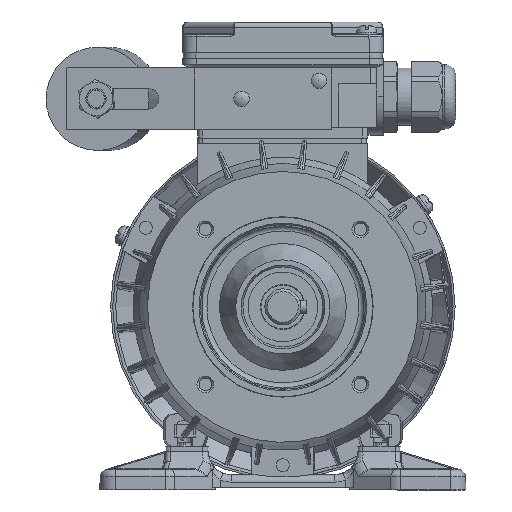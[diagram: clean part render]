
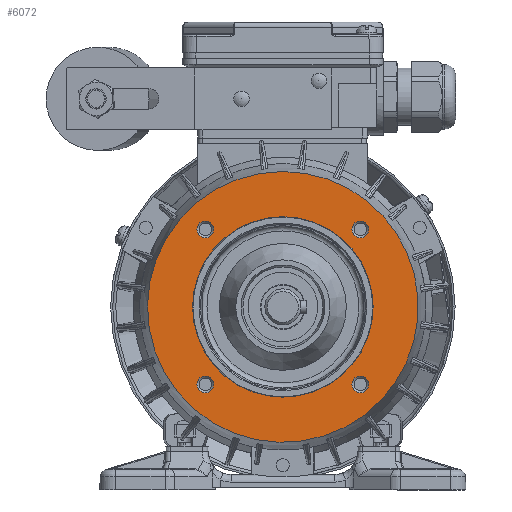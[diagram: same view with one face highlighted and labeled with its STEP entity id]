
A CAD part, front view. The second image highlights one B-rep face of the part: STEP entity #6072.
In plain terms, the highlighted planar face has unit normal (0, -1, 0) as drawn and (-1, 0, 0) by its records, which use the part's own axes.
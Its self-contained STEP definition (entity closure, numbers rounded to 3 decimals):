
#6072 = ADVANCED_FACE( '', ( #13155, #13156, #13157, #13158, #13159, #13160 ), #13161, .F. );
#13155 = FACE_BOUND( '', #43732, .T. );
#13156 = FACE_BOUND( '', #43733, .T. );
#13157 = FACE_BOUND( '', #43734, .T. );
#13158 = FACE_BOUND( '', #43735, .T. );
#13159 = FACE_BOUND( '', #43736, .T. );
#13160 = FACE_OUTER_BOUND( '', #43737, .T. );
#13161 = PLANE( '', #43738 );
#43732 = EDGE_LOOP( '', ( #80437 ) );
#43733 = EDGE_LOOP( '', ( #80438 ) );
#43734 = EDGE_LOOP( '', ( #80439 ) );
#43735 = EDGE_LOOP( '', ( #80440 ) );
#43736 = EDGE_LOOP( '', ( #80441 ) );
#43737 = EDGE_LOOP( '', ( #80442 ) );
#43738 = AXIS2_PLACEMENT_3D( '', #80443, #80444, #80445 );
#80437 = ORIENTED_EDGE( '', *, *, #97362, .T. );
#80438 = ORIENTED_EDGE( '', *, *, #98476, .T. );
#80439 = ORIENTED_EDGE( '', *, *, #98477, .T. );
#80440 = ORIENTED_EDGE( '', *, *, #96613, .T. );
#80441 = ORIENTED_EDGE( '', *, *, #98439, .F. );
#80442 = ORIENTED_EDGE( '', *, *, #97178, .T. );
#80443 = CARTESIAN_POINT( '', ( 2.5, 0., 52.5 ) );
#80444 = DIRECTION( '', ( 1., 0., 0. ) );
#80445 = DIRECTION( '', ( 0., 0., -1. ) );
#96613 = EDGE_CURVE( '', #109469, #109469, #109470, .T. );
#97178 = EDGE_CURVE( '', #110277, #110277, #110278, .T. );
#97362 = EDGE_CURVE( '', #110530, #110530, #110531, .T. );
#98439 = EDGE_CURVE( '', #112045, #112045, #112046, .T. );
#98476 = EDGE_CURVE( '', #112093, #112093, #112094, .T. );
#98477 = EDGE_CURVE( '', #112095, #112095, #112096, .T. );
#109469 = VERTEX_POINT( '', #143140 );
#109470 = CIRCLE( '', #143141, 3.259 );
#110277 = VERTEX_POINT( '', #147020 );
#110278 = CIRCLE( '', #147021, 52.5 );
#110530 = VERTEX_POINT( '', #147939 );
#110531 = CIRCLE( '', #147940, 3.259 );
#112045 = VERTEX_POINT( '', #153327 );
#112046 = CIRCLE( '', #153328, 35. );
#112093 = VERTEX_POINT( '', #153492 );
#112094 = CIRCLE( '', #153493, 3.259 );
#112095 = VERTEX_POINT( '', #153494 );
#112096 = CIRCLE( '', #153495, 3.259 );
#143140 = CARTESIAN_POINT( '', ( 2.5, -33.311, 30.052 ) );
#143141 = AXIS2_PLACEMENT_3D( '', #170754, #170755, #170756 );
#147020 = CARTESIAN_POINT( '', ( 2.5, 0., 52.5 ) );
#147021 = AXIS2_PLACEMENT_3D( '', #171339, #171340, #171341 );
#147939 = CARTESIAN_POINT( '', ( 2.5, 26.794, 30.052 ) );
#147940 = AXIS2_PLACEMENT_3D( '', #171541, #171542, #171543 );
#153327 = CARTESIAN_POINT( '', ( 2.5, 0., 35. ) );
#153328 = AXIS2_PLACEMENT_3D( '', #172635, #172636, #172637 );
#153492 = CARTESIAN_POINT( '', ( 2.5, 26.794, -30.052 ) );
#153493 = AXIS2_PLACEMENT_3D( '', #172673, #172674, #172675 );
#153494 = CARTESIAN_POINT( '', ( 2.5, -33.311, -30.052 ) );
#153495 = AXIS2_PLACEMENT_3D( '', #172676, #172677, #172678 );
#170754 = CARTESIAN_POINT( '', ( 2.5, -30.052, 30.052 ) );
#170755 = DIRECTION( '', ( 1., 0., 0. ) );
#170756 = DIRECTION( '', ( 0., -1., 0. ) );
#171339 = CARTESIAN_POINT( '', ( 2.5, 0., 0. ) );
#171340 = DIRECTION( '', ( -1., 0., 0. ) );
#171341 = DIRECTION( '', ( 0., 0., 1. ) );
#171541 = CARTESIAN_POINT( '', ( 2.5, 30.052, 30.052 ) );
#171542 = DIRECTION( '', ( 1., 0., 0. ) );
#171543 = DIRECTION( '', ( 0., -1., 0. ) );
#172635 = CARTESIAN_POINT( '', ( 2.5, 0., 0. ) );
#172636 = DIRECTION( '', ( -1., 0., 0. ) );
#172637 = DIRECTION( '', ( 0., 0., 1. ) );
#172673 = CARTESIAN_POINT( '', ( 2.5, 30.052, -30.052 ) );
#172674 = DIRECTION( '', ( 1., 0., 0. ) );
#172675 = DIRECTION( '', ( 0., -1., 0. ) );
#172676 = CARTESIAN_POINT( '', ( 2.5, -30.052, -30.052 ) );
#172677 = DIRECTION( '', ( 1., 0., 0. ) );
#172678 = DIRECTION( '', ( 0., -1., 0. ) );
